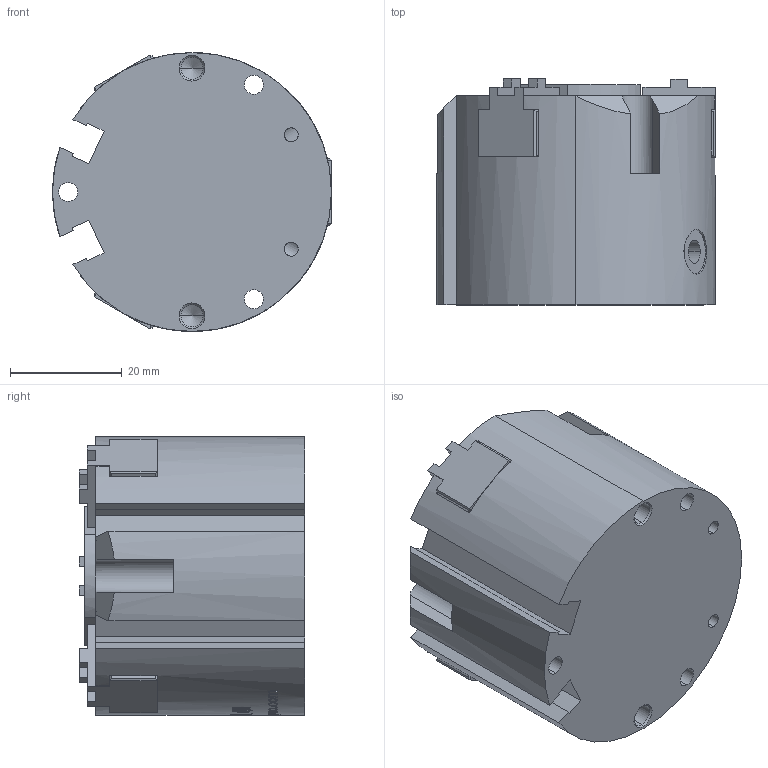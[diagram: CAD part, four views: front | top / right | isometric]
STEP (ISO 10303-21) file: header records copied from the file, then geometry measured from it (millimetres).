
FILE_DESCRIPTION (( 'STEP AP203' ), '1' );
FILE_NAME ('MAC3-50-原始檔-組合-W106.04.13.STEP', '2017-04-13T08:00:35', ( 'DanyaoCAD' ), ( '' ), 'SwSTEP 2.0', 'SolidWorks 2016', '' );
FILE_SCHEMA (( 'CONFIG_CONTROL_DESIGN' ));
Length unit declared in the file: millimetre
Products named in the file (5): Spintore; Corpo; MAC3-50-原始檔-組合-W106.04.13; Griffa; Coperchio
Assembly tree (6 placements, depth 2):
  MAC3-50-原始檔-組合-W106.04.13
    Griffa  x3
    Coperchio
    Spintore
    Corpo
Bounding box: 50 x 40.5 x 50 mm (x, y, z)
Volume: 67153.5 mm3; surface area: 21238.9 mm2
Topology: 6 solids, 6 shells, 1084 faces, 3025 edges, 1990 vertices
Faces by surface type: bspline 665, plane 258, cylinder 125, cone 36
Entity records: 72356 total; most frequent: CARTESIAN_POINT 51839, ORIENTED_EDGE 5586, EDGE_CURVE 2793, B_SPLINE_CURVE_WITH_KNOTS 2045, VERTEX_POINT 1854, DIRECTION 1676, EDGE_LOOP 1081, ADVANCED_FACE 1006
